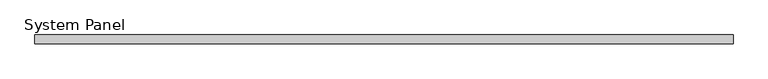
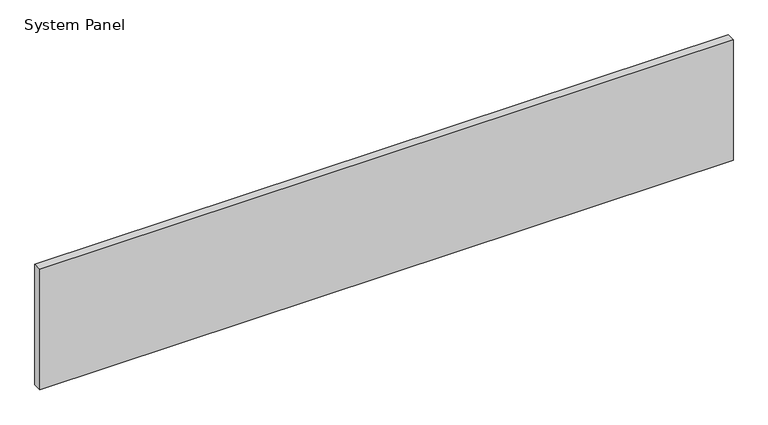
"""IFC4 building model written with IfcOpenShell, lengths in millimetres: plate geometry, System Panel : MetecnoPanel 75mm Horizontal - Plain Astro - PIR."""

from ifc_helpers import new_model, si_unit, origin, origin_with_axes, place, context, project, spatial, polyline, outline, extrude, source, transform, mapped, element, save


def system_panel_dc39182a(model_context):
    return source(origin(), model_context, "Body", "SweptSolid", [
        extrude(outline(polyline([(2995.0, 0.0), (-2995.0, 0.0), (-2995.0, 75.0), (2995.0, 75.0), (2995.0, 0.0)])), origin_with_axes(), (0.0, 0.0, 1.0), 1100.0),
    ])


if __name__ == "__main__":
    model = new_model("IFC4")
    model_context = context("Model", 3, world=origin())
    ifc_project = project(units=[si_unit("LENGTHUNIT", "METRE", prefix="MILLI")], contexts=[model_context])
    site = spatial("IfcSite", under=ifc_project)
    building = spatial("IfcBuilding", under=site)
    placement = place(None, origin())
    system_panel_shape = system_panel_dc39182a(model_context)
    element("IfcPlate", 1, ObjectType="System Panel : MetecnoPanel 75mm Horizontal - Plain Astro - PIR", at=placement, inside=building, context=model_context, shape_type="MappedRepresentation", body=[
        mapped(system_panel_shape, transform((0.0, 0.0, 0.0), x_axis=(1.0, 0.0, 0.0), y_axis=(0.0, 1.0, 0.0), z_axis=(0.0, 0.0, 1.0))),
    ])
    save(model, "model.ifc")
